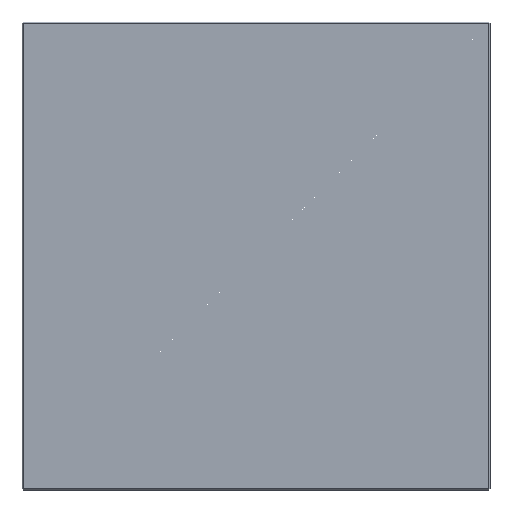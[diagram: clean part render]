
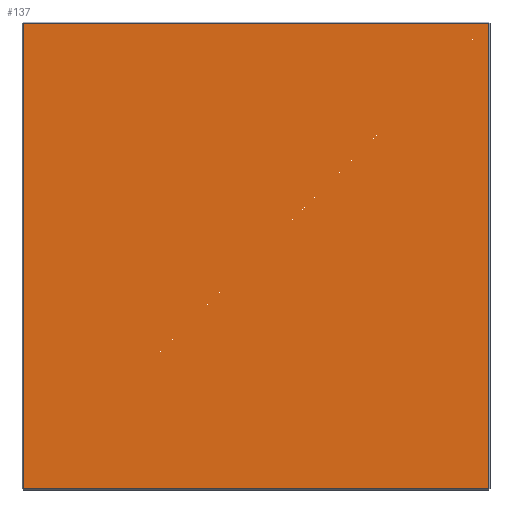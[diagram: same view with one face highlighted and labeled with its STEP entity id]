
A CAD part, front view. The second image highlights one B-rep face of the part: STEP entity #137.
In plain terms, the highlighted planar face has unit normal (0, -1, 0).
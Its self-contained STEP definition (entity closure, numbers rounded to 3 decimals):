
#27 = FACE_OUTER_BOUND ( 'NONE', #568, .T. ) ;
#52 = VERTEX_POINT ( 'NONE', #104 ) ;
#58 = LINE ( 'NONE', #507, #167 ) ;
#74 = VECTOR ( 'NONE', #431, 1000. ) ;
#87 = DIRECTION ( 'NONE',  ( 0., 0., -1. ) ) ;
#98 = EDGE_CURVE ( 'NONE', #397, #578, #277, .T. ) ;
#99 = CARTESIAN_POINT ( 'NONE',  ( 172., 0., -172. ) ) ;
#104 = CARTESIAN_POINT ( 'NONE',  ( 172., 0., 172. ) ) ;
#121 = LINE ( 'NONE', #264, #74 ) ;
#129 = EDGE_CURVE ( 'NONE', #52, #438, #477, .T. ) ;
#137 = ADVANCED_FACE ( 'NONE', ( #27 ), #411, .F. ) ;
#167 = VECTOR ( 'NONE', #87, 1000. ) ;
#189 = CARTESIAN_POINT ( 'NONE',  ( 0., 0., -172. ) ) ;
#202 = CARTESIAN_POINT ( 'NONE',  ( 0., 0., 172. ) ) ;
#211 = CARTESIAN_POINT ( 'NONE',  ( -172., 0., -172. ) ) ;
#225 = DIRECTION ( 'NONE',  ( 1., 0., 0. ) ) ;
#243 = ORIENTED_EDGE ( 'NONE', *, *, #429, .T. ) ;
#264 = CARTESIAN_POINT ( 'NONE',  ( 172., 0., 0. ) ) ;
#277 = LINE ( 'NONE', #189, #580 ) ;
#295 = ORIENTED_EDGE ( 'NONE', *, *, #382, .T. ) ;
#298 = CARTESIAN_POINT ( 'NONE',  ( 0., 0., 0. ) ) ;
#310 = ORIENTED_EDGE ( 'NONE', *, *, #129, .T. ) ;
#367 = DIRECTION ( 'NONE',  ( -1., 0., 0. ) ) ;
#382 = EDGE_CURVE ( 'NONE', #438, #397, #58, .T. ) ;
#397 = VERTEX_POINT ( 'NONE', #211 ) ;
#411 = PLANE ( 'NONE',  #626 ) ;
#429 = EDGE_CURVE ( 'NONE', #578, #52, #121, .T. ) ;
#431 = DIRECTION ( 'NONE',  ( 0., 0., 1. ) ) ;
#438 = VERTEX_POINT ( 'NONE', #474 ) ;
#466 = DIRECTION ( 'NONE',  ( 0., 0., 1. ) ) ;
#474 = CARTESIAN_POINT ( 'NONE',  ( -172., 0., 172. ) ) ;
#477 = LINE ( 'NONE', #202, #537 ) ;
#481 = DIRECTION ( 'NONE',  ( 0., 1., 0. ) ) ;
#507 = CARTESIAN_POINT ( 'NONE',  ( -172., 0., 0. ) ) ;
#537 = VECTOR ( 'NONE', #367, 1000. ) ;
#568 = EDGE_LOOP ( 'NONE', ( #243, #310, #295, #629 ) ) ;
#578 = VERTEX_POINT ( 'NONE', #99 ) ;
#580 = VECTOR ( 'NONE', #225, 1000. ) ;
#626 = AXIS2_PLACEMENT_3D ( 'NONE', #298, #481, #466 ) ;
#629 = ORIENTED_EDGE ( 'NONE', *, *, #98, .T. ) ;
